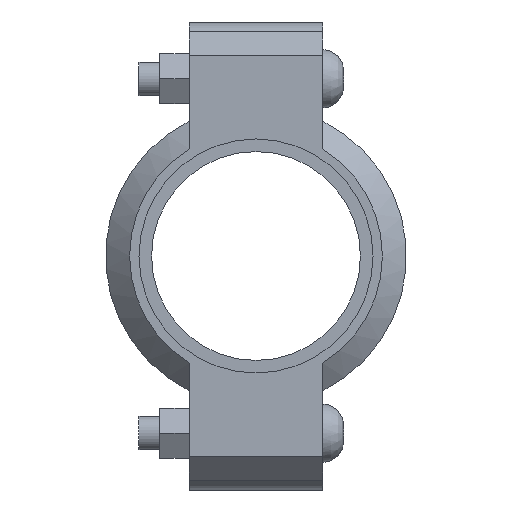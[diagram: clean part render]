
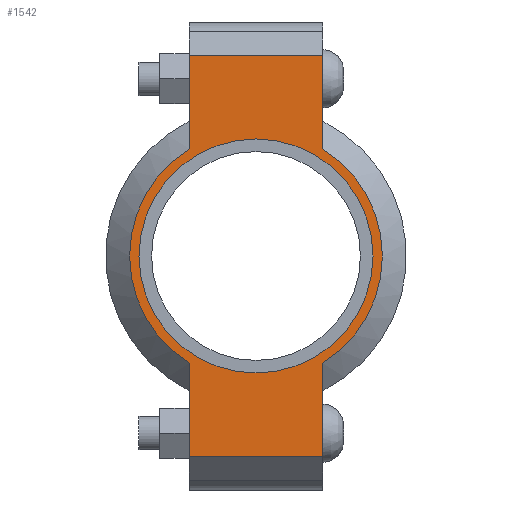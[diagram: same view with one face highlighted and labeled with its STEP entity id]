
A CAD part, left-side view. The second image highlights one B-rep face of the part: STEP entity #1542.
In plain terms, the highlighted planar face has unit normal (-1, 0, 0) as drawn and (0, 0, 1) by its records, which use the part's own axes.
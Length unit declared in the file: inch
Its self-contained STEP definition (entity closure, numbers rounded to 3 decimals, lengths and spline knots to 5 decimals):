
#166=LINE('',#2691,#259);
#174=LINE('',#2727,#267);
#181=LINE('',#2748,#274);
#190=LINE('',#2780,#283);
#191=LINE('',#2784,#284);
#192=LINE('',#2786,#285);
#259=VECTOR('',#2195,0.3937);
#267=VECTOR('',#2211,0.3937);
#274=VECTOR('',#2230,0.3937);
#283=VECTOR('',#2255,0.3937);
#284=VECTOR('',#2260,0.3937);
#285=VECTOR('',#2261,0.3937);
#341=FACE_BOUND('',#519,.T.);
#413=FACE_OUTER_BOUND('',#518,.T.);
#518=EDGE_LOOP('',(#1283,#1284,#1285,#1286,#1287,#1288,#1289,#1290));
#519=EDGE_LOOP('',(#1291));
#591=CIRCLE('',#1761,1.75);
#617=CIRCLE('',#1820,1.89);
#618=CIRCLE('',#1821,1.89);
#683=VERTEX_POINT('',#2507);
#726=VERTEX_POINT('',#2688);
#727=VERTEX_POINT('',#2690);
#738=VERTEX_POINT('',#2722);
#739=VERTEX_POINT('',#2726);
#746=VERTEX_POINT('',#2745);
#747=VERTEX_POINT('',#2747);
#757=VERTEX_POINT('',#2783);
#758=VERTEX_POINT('',#2785);
#839=EDGE_CURVE('',#683,#683,#591,.T.);
#900=EDGE_CURVE('',#727,#726,#166,.T.);
#914=EDGE_CURVE('',#739,#738,#174,.T.);
#924=EDGE_CURVE('',#747,#746,#181,.T.);
#939=EDGE_CURVE('',#739,#726,#190,.T.);
#940=EDGE_CURVE('',#738,#747,#617,.T.);
#941=EDGE_CURVE('',#757,#746,#191,.T.);
#942=EDGE_CURVE('',#757,#758,#192,.T.);
#943=EDGE_CURVE('',#758,#727,#618,.T.);
#1283=ORIENTED_EDGE('',*,*,#939,.F.);
#1284=ORIENTED_EDGE('',*,*,#914,.T.);
#1285=ORIENTED_EDGE('',*,*,#940,.T.);
#1286=ORIENTED_EDGE('',*,*,#924,.T.);
#1287=ORIENTED_EDGE('',*,*,#941,.F.);
#1288=ORIENTED_EDGE('',*,*,#942,.T.);
#1289=ORIENTED_EDGE('',*,*,#943,.T.);
#1290=ORIENTED_EDGE('',*,*,#900,.T.);
#1291=ORIENTED_EDGE('',*,*,#839,.T.);
#1384=PLANE('',#1819);
#1542=ADVANCED_FACE('',(#413,#341),#1384,.T.);
#1761=AXIS2_PLACEMENT_3D('',#2509,#2071,#2072);
#1819=AXIS2_PLACEMENT_3D('',#2781,#2256,#2257);
#1820=AXIS2_PLACEMENT_3D('',#2782,#2258,#2259);
#1821=AXIS2_PLACEMENT_3D('',#2787,#2262,#2263);
#2071=DIRECTION('center_axis',(0.,0.,-1.));
#2072=DIRECTION('ref_axis',(-1.,0.,0.));
#2195=DIRECTION('',(-1.,0.,0.));
#2211=DIRECTION('',(1.,0.,0.));
#2230=DIRECTION('',(1.,0.,0.));
#2255=DIRECTION('',(0.,1.,0.));
#2256=DIRECTION('center_axis',(0.,0.,1.));
#2257=DIRECTION('ref_axis',(1.,0.,0.));
#2258=DIRECTION('center_axis',(0.,0.,1.));
#2259=DIRECTION('ref_axis',(-1.,0.,0.));
#2260=DIRECTION('',(0.,-1.,0.));
#2261=DIRECTION('',(-1.,0.,0.));
#2262=DIRECTION('center_axis',(0.,0.,1.));
#2263=DIRECTION('ref_axis',(-1.,0.,0.));
#2507=CARTESIAN_POINT('',(1.75,0.,0.94));
#2509=CARTESIAN_POINT('Origin',(0.,0.,0.94));
#2688=CARTESIAN_POINT('',(-3.,1.,0.94));
#2690=CARTESIAN_POINT('',(-1.60378,1.,0.94));
#2691=CARTESIAN_POINT('',(-3.5,1.,0.94));
#2722=CARTESIAN_POINT('',(-1.60378,-1.,0.94));
#2726=CARTESIAN_POINT('',(-3.,-1.,0.94));
#2727=CARTESIAN_POINT('',(3.5,-1.,0.94));
#2745=CARTESIAN_POINT('',(3.,-1.,0.94));
#2747=CARTESIAN_POINT('',(1.60378,-1.,0.94));
#2748=CARTESIAN_POINT('',(3.5,-1.,0.94));
#2780=CARTESIAN_POINT('',(-3.,0.5,0.94));
#2781=CARTESIAN_POINT('Origin',(0.,0.,
0.94));
#2782=CARTESIAN_POINT('Origin',(0.,0.,0.94));
#2783=CARTESIAN_POINT('',(3.,1.,0.94));
#2784=CARTESIAN_POINT('',(3.,-0.5,0.94));
#2785=CARTESIAN_POINT('',(1.60378,1.,0.94));
#2786=CARTESIAN_POINT('',(-3.5,1.,0.94));
#2787=CARTESIAN_POINT('Origin',(0.,0.,0.94));
